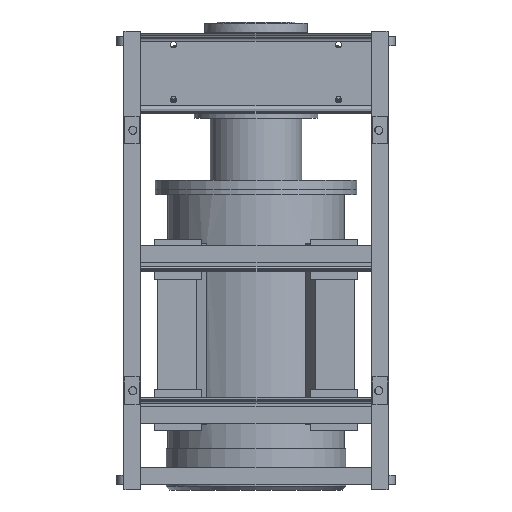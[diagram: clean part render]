
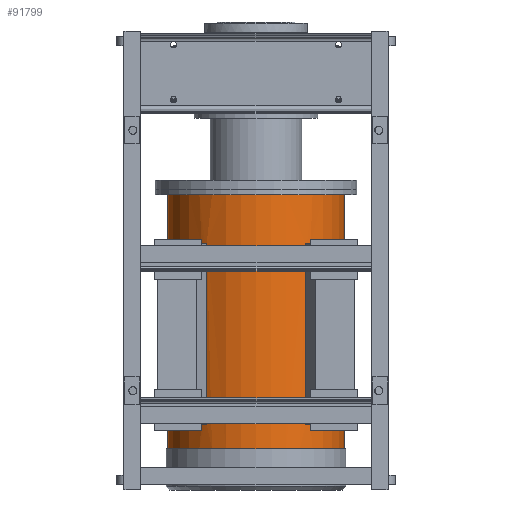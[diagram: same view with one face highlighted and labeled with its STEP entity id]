
A CAD part, front view. The second image highlights one B-rep face of the part: STEP entity #91799.
In plain terms, the highlighted cylindrical face has radius 240 mm (diameter 480 mm), a partial arc.
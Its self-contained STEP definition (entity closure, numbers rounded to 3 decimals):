
#521 = ORIENTED_EDGE ( 'NONE', *, *, #75518, .T. ) ;
#537 = CARTESIAN_POINT ( 'NONE',  ( 148.813, -188.294, -1135.8 ) ) ;
#2154 = CARTESIAN_POINT ( 'NONE',  ( 134.196, -198.976, -462.8 ) ) ;
#2160 = DIRECTION ( 'NONE',  ( 0., 0., -1. ) ) ;
#2308 = VECTOR ( 'NONE', #77678, 1000. ) ;
#2342 = VECTOR ( 'NONE', #38072, 1000. ) ;
#3426 = CIRCLE ( 'NONE', #86874, 240. ) ;
#3994 = AXIS2_PLACEMENT_3D ( 'NONE', #80632, #2160, #21073 ) ;
#4226 = VERTEX_POINT ( 'NONE', #98628 ) ;
#6153 = CARTESIAN_POINT ( 'NONE',  ( 0., 0., -1135.8 ) ) ;
#6760 = DIRECTION ( 'NONE',  ( 0., 0., -1. ) ) ;
#7274 = EDGE_LOOP ( 'NONE', ( #13961, #109968, #521, #25808 ) ) ;
#7605 = CARTESIAN_POINT ( 'NONE',  ( 0., 0., -957.8 ) ) ;
#7750 = FACE_OUTER_BOUND ( 'NONE', #53262, .T. ) ;
#7952 = VERTEX_POINT ( 'NONE', #74828 ) ;
#8332 = CARTESIAN_POINT ( 'NONE',  ( -134.196, -198.976, -957.8 ) ) ;
#8854 = EDGE_LOOP ( 'NONE', ( #29829, #94343, #60698, #42771 ) ) ;
#8988 = LINE ( 'NONE', #56153, #58102 ) ;
#10427 = DIRECTION ( 'NONE',  ( 1., 0., 0. ) ) ;
#13961 = ORIENTED_EDGE ( 'NONE', *, *, #123528, .F. ) ;
#14387 = DIRECTION ( 'NONE',  ( 0., 0., 1. ) ) ;
#14810 = CARTESIAN_POINT ( 'NONE',  ( 0., 0., -462.8 ) ) ;
#16276 = DIRECTION ( 'NONE',  ( 0., 0., -1. ) ) ;
#18490 = CYLINDRICAL_SURFACE ( 'NONE', #122030, 240. ) ;
#18907 = ORIENTED_EDGE ( 'NONE', *, *, #30166, .T. ) ;
#19473 = EDGE_CURVE ( 'NONE', #4226, #46432, #88005, .T. ) ;
#21073 = DIRECTION ( 'NONE',  ( -1., 0., 0. ) ) ;
#21339 = CIRCLE ( 'NONE', #45694, 240. ) ;
#22876 = CARTESIAN_POINT ( 'NONE',  ( 240., 0., -1022.8 ) ) ;
#24410 = AXIS2_PLACEMENT_3D ( 'NONE', #29729, #98234, #10427 ) ;
#25808 = ORIENTED_EDGE ( 'NONE', *, *, #45549, .T. ) ;
#26206 = FACE_BOUND ( 'NONE', #8854, .T. ) ;
#29729 = CARTESIAN_POINT ( 'NONE',  ( 0., 0., -462.8 ) ) ;
#29829 = ORIENTED_EDGE ( 'NONE', *, *, #118128, .F. ) ;
#30166 = EDGE_CURVE ( 'NONE', #46432, #92941, #8988, .T. ) ;
#30213 = CARTESIAN_POINT ( 'NONE',  ( -148.813, -188.294, -1135.8 ) ) ;
#32290 = CIRCLE ( 'NONE', #24410, 240. ) ;
#33605 = EDGE_CURVE ( 'NONE', #33632, #37724, #57851, .T. ) ;
#33632 = VERTEX_POINT ( 'NONE', #109463 ) ;
#34880 = LINE ( 'NONE', #537, #76267 ) ;
#35953 = DIRECTION ( 'NONE',  ( 1., 0., 0. ) ) ;
#37636 = CARTESIAN_POINT ( 'NONE',  ( 0., 0., -1022.8 ) ) ;
#37724 = VERTEX_POINT ( 'NONE', #72601 ) ;
#38072 = DIRECTION ( 'NONE',  ( 0., 0., 1. ) ) ;
#40458 = DIRECTION ( 'NONE',  ( 0., 0., -1. ) ) ;
#42771 = ORIENTED_EDGE ( 'NONE', *, *, #93295, .F. ) ;
#42825 = CARTESIAN_POINT ( 'NONE',  ( 148.813, -188.294, -462.8 ) ) ;
#44355 = AXIS2_PLACEMENT_3D ( 'NONE', #14810, #14387, #93180 ) ;
#45549 = EDGE_CURVE ( 'NONE', #93916, #113805, #34880, .T. ) ;
#45694 = AXIS2_PLACEMENT_3D ( 'NONE', #7605, #6760, #35953 ) ;
#46432 = VERTEX_POINT ( 'NONE', #77463 ) ;
#46726 = ORIENTED_EDGE ( 'NONE', *, *, #119431, .F. ) ;
#48353 = DIRECTION ( 'NONE',  ( -1., 0., 0. ) ) ;
#50235 = VECTOR ( 'NONE', #68753, 1000. ) ;
#53089 = CARTESIAN_POINT ( 'NONE',  ( 134.196, -198.976, -957.8 ) ) ;
#53262 = EDGE_LOOP ( 'NONE', ( #46726, #60961, #18907, #88952 ) ) ;
#54690 = CIRCLE ( 'NONE', #80206, 240. ) ;
#56153 = CARTESIAN_POINT ( 'NONE',  ( -240., 0., -1135.8 ) ) ;
#57360 = CARTESIAN_POINT ( 'NONE',  ( 134.196, -198.976, -1135.8 ) ) ;
#57824 = DIRECTION ( 'NONE',  ( -1., 0., 0. ) ) ;
#57851 = LINE ( 'NONE', #30213, #50235 ) ;
#58102 = VECTOR ( 'NONE', #16276, 1000. ) ;
#60698 = ORIENTED_EDGE ( 'NONE', *, *, #33605, .F. ) ;
#60788 = VECTOR ( 'NONE', #86794, 1000. ) ;
#60961 = ORIENTED_EDGE ( 'NONE', *, *, #19473, .T. ) ;
#61480 = VERTEX_POINT ( 'NONE', #22876 ) ;
#66740 = VERTEX_POINT ( 'NONE', #8332 ) ;
#66795 = DIRECTION ( 'NONE',  ( 0., 0., 1. ) ) ;
#68753 = DIRECTION ( 'NONE',  ( 0., 0., -1. ) ) ;
#69723 = EDGE_CURVE ( 'NONE', #61480, #92941, #54690, .T. ) ;
#69963 = LINE ( 'NONE', #78212, #60788 ) ;
#72601 = CARTESIAN_POINT ( 'NONE',  ( -148.813, -188.294, -957.8 ) ) ;
#74828 = CARTESIAN_POINT ( 'NONE',  ( -134.196, -198.976, -462.8 ) ) ;
#75240 = CARTESIAN_POINT ( 'NONE',  ( 148.813, -188.294, -957.8 ) ) ;
#75518 = EDGE_CURVE ( 'NONE', #123026, #93916, #123241, .T. ) ;
#76267 = VECTOR ( 'NONE', #40458, 1000. ) ;
#77463 = CARTESIAN_POINT ( 'NONE',  ( -240., 0., -330.8 ) ) ;
#77678 = DIRECTION ( 'NONE',  ( 0., 0., -1. ) ) ;
#77867 = DIRECTION ( 'NONE',  ( 0., 0., -1. ) ) ;
#78212 = CARTESIAN_POINT ( 'NONE',  ( -134.196, -198.976, -1135.8 ) ) ;
#80206 = AXIS2_PLACEMENT_3D ( 'NONE', #37636, #77867, #48353 ) ;
#80632 = CARTESIAN_POINT ( 'NONE',  ( 0., 0., -330.8 ) ) ;
#82880 = FACE_BOUND ( 'NONE', #7274, .T. ) ;
#82896 = EDGE_CURVE ( 'NONE', #66740, #37724, #21339, .T. ) ;
#83639 = LINE ( 'NONE', #57360, #2342 ) ;
#84150 = DIRECTION ( 'NONE',  ( -1., 0., 0. ) ) ;
#86794 = DIRECTION ( 'NONE',  ( 0., 0., 1. ) ) ;
#86874 = AXIS2_PLACEMENT_3D ( 'NONE', #107057, #66795, #57824 ) ;
#88005 = CIRCLE ( 'NONE', #3994, 240. ) ;
#88952 = ORIENTED_EDGE ( 'NONE', *, *, #69723, .F. ) ;
#90207 = EDGE_CURVE ( 'NONE', #92642, #123026, #83639, .T. ) ;
#91799 = ADVANCED_FACE ( 'NONE', ( #7750, #82880, #26206 ), #18490, .T. ) ;
#92642 = VERTEX_POINT ( 'NONE', #53089 ) ;
#92941 = VERTEX_POINT ( 'NONE', #108225 ) ;
#93180 = DIRECTION ( 'NONE',  ( -1., 0., 0. ) ) ;
#93295 = EDGE_CURVE ( 'NONE', #7952, #33632, #32290, .T. ) ;
#93916 = VERTEX_POINT ( 'NONE', #42825 ) ;
#94343 = ORIENTED_EDGE ( 'NONE', *, *, #82896, .T. ) ;
#95256 = DIRECTION ( 'NONE',  ( 0., 0., -1. ) ) ;
#98234 = DIRECTION ( 'NONE',  ( 0., 0., -1. ) ) ;
#98628 = CARTESIAN_POINT ( 'NONE',  ( 240., 0., -330.8 ) ) ;
#107057 = CARTESIAN_POINT ( 'NONE',  ( 0., 0., -957.8 ) ) ;
#108225 = CARTESIAN_POINT ( 'NONE',  ( -240., 0., -1022.8 ) ) ;
#108516 = CARTESIAN_POINT ( 'NONE',  ( 240., 0., -1135.8 ) ) ;
#109463 = CARTESIAN_POINT ( 'NONE',  ( -148.813, -188.294, -462.8 ) ) ;
#109725 = LINE ( 'NONE', #108516, #2308 ) ;
#109968 = ORIENTED_EDGE ( 'NONE', *, *, #90207, .T. ) ;
#113805 = VERTEX_POINT ( 'NONE', #75240 ) ;
#118128 = EDGE_CURVE ( 'NONE', #66740, #7952, #69963, .T. ) ;
#119431 = EDGE_CURVE ( 'NONE', #4226, #61480, #109725, .T. ) ;
#122030 = AXIS2_PLACEMENT_3D ( 'NONE', #6153, #95256, #84150 ) ;
#123026 = VERTEX_POINT ( 'NONE', #2154 ) ;
#123241 = CIRCLE ( 'NONE', #44355, 240. ) ;
#123528 = EDGE_CURVE ( 'NONE', #92642, #113805, #3426, .T. ) ;
